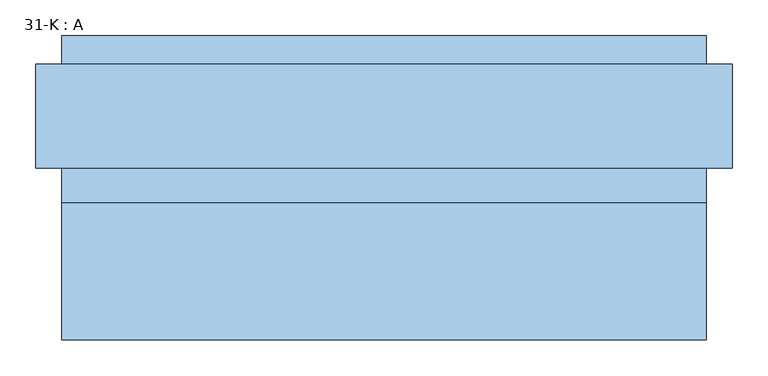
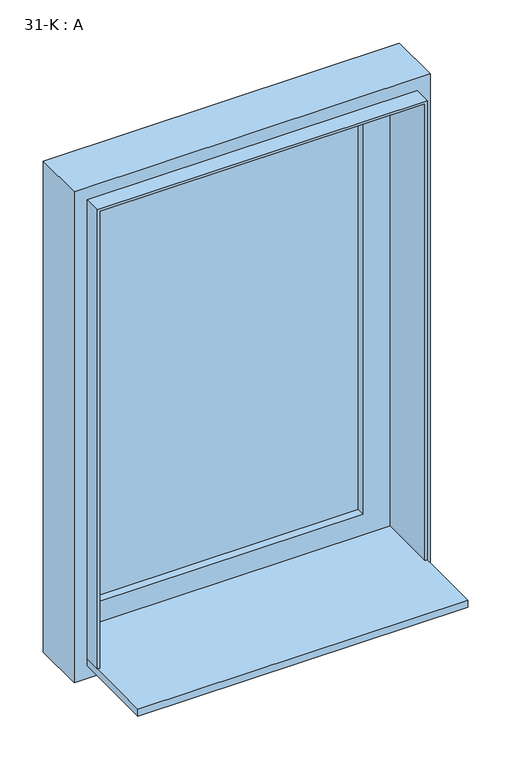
"""IFC4 building model written with IfcOpenShell, lengths in millimetres: window geometry, 31-K : A."""

from ifc_helpers import new_model, si_unit, frame, origin, place, context, project, spatial, polyline, outline, extrude, faceted_brep, source, transform, mapped, element, save


def window_31_k_a_1c9fa585(model_context):
    return source(origin(), model_context, "Body", "SolidModel", [
        extrude(outline(polyline([(380.0, 243.5), (380.0, 239.5), (-380.0, 239.5), (-380.0, 243.5), (380.0, 243.5)])), frame((0.0, 0.0, 1125.0191483), z_axis=(0.0, 0.0, 1.0), x_axis=(1.0, 0.0, 0.0)), (0.0, 0.0, 1.0), 1204.9808517),
        extrude(outline(polyline([(-380.0, 258.5), (-380.0, 263.5), (380.0, 263.5), (380.0, 258.5), (-380.0, 258.5)])), frame((0.0, 0.0, 1125.0191483), z_axis=(0.0, 0.0, 1.0), x_axis=(1.0, 0.0, 0.0)), (0.0, 0.0, 1.0), 1204.9808517),
        extrude(outline(polyline([(1019.0, -486.0), (1019.0, 486.0), (2436.0, 486.0), (2436.0, -486.0), (1019.0, -486.0)]), holes=[polyline([(2400.0, -450.0), (2400.0, 450.0), (1055.0, 450.0), (1055.0, -450.0), (2400.0, -450.0)])]), frame((0.0, 100.0, 0.0), z_axis=(0.0, 1.0, 0.0), x_axis=(0.0, 0.0, 1.0)), (0.0, 0.0, 1.0), 145.0),
        extrude(outline(polyline([(1075.0, 444.0), (1075.0, 450.0), (2400.0, 450.0), (2400.0, -450.0), (1075.0, -450.0), (1075.0, -444.0), (2394.0, -444.0), (2394.0, 444.0), (1075.0, 444.0)])), frame((0.0, 52.0, 0.0), z_axis=(0.0, 1.0, 0.0), x_axis=(0.0, 0.0, 1.0)), (0.0, 0.0, 1.0), 165.0),
        faceted_brep([(-450.0, 217.0, 2400.0), (-450.0, 285.0, 2400.0), (-450.0, 285.0, 1055.0), (-450.0, 226.0, 1055.0), (-450.0, 226.0, 1075.0), (-450.0, 217.0, 1075.0), (450.0, 285.0, 2400.0), (450.0, 285.0, 1055.0), (370.0, 285.0, 2320.0), (-370.0, 285.0, 2320.0), (-370.0, 285.0, 1122.7707727), (370.0, 285.0, 1122.7707727), (450.0, 226.0, 1055.0), (450.0, 226.0, 1075.0), (450.0, 217.0, 1075.0), (450.0, 217.0, 2400.0), (-370.0, 217.0, 2320.0), (370.0, 217.0, 2320.0), (370.0, 217.0, 1135.0), (-370.0, 217.0, 1135.0), (370.0, 239.5, 2320.0), (370.0, 239.5, 1135.0), (-370.0, 239.5, 1135.0), (-370.0, 239.5, 2320.0), (-370.0, 267.0, 2320.0), (-370.0, 267.0, 1128.273925), (370.0, 267.0, 1128.273925), (370.0, 267.0, 2320.0), (-384.0, 239.5, 1121.0), (-384.0, 239.5, 2334.0), (384.0, 239.5, 2334.0), (384.0, 239.5, 1121.0), (-384.0, 267.0, 2334.0), (-384.0, 267.0, 1121.0), (384.0, 267.0, 1121.0), (384.0, 267.0, 2334.0)], [[[0, 1, 2, 3, 4, 5]], [[2, 1, 6, 7], [8, 9, 10, 11]], [[2, 7, 12, 3]], [[13, 4, 3, 12]], [[4, 13, 14, 5]], [[15, 0, 5, 14], [16, 17, 18, 19]], [[7, 6, 15, 14, 13, 12]], [[18, 17, 20, 21]], [[19, 18, 21, 22]], [[16, 19, 22, 23]], [[9, 24, 25, 10]], [[26, 11, 10, 25]], [[27, 8, 11, 26]], [[28, 29, 30, 31], [23, 22, 21, 20]], [[32, 29, 28, 33]], [[33, 28, 31, 34]], [[32, 33, 34, 35], [24, 27, 26, 25]], [[34, 31, 30, 35]], [[1, 0, 15, 6]], [[17, 16, 23, 20]], [[9, 8, 27, 24]], [[29, 32, 35, 30]]]),
        extrude(outline(polyline([(-450.0, -140.0), (-450.0, 226.0), (450.0, 226.0), (450.0, -140.0), (-450.0, -140.0)])), frame((0.0, 0.0, 1055.0), z_axis=(0.0, 0.0, 1.0), x_axis=(1.0, 0.0, 0.0)), (0.0, 0.0, 1.0), 20.0),
    ])


if __name__ == "__main__":
    model = new_model("IFC4")
    model_context = context("Model", 3, world=origin())
    ifc_project = project(units=[si_unit("LENGTHUNIT", "METRE", prefix="MILLI")], contexts=[model_context])
    site = spatial("IfcSite", under=ifc_project)
    building = spatial("IfcBuilding", under=site)
    placement = place(None, origin())
    window_31_k_a_shape = window_31_k_a_1c9fa585(model_context)
    element("IfcWindow", 1, ObjectType="31-K : A", at=placement, inside=building, context=model_context, shape_type="MappedRepresentation", body=[
        mapped(window_31_k_a_shape, transform((0.0, 0.0, 0.0), x_axis=(1.0, 0.0, 0.0), y_axis=(0.0, 1.0, 0.0), z_axis=(0.0, 0.0, 1.0))),
    ])
    save(model, "model.ifc")
